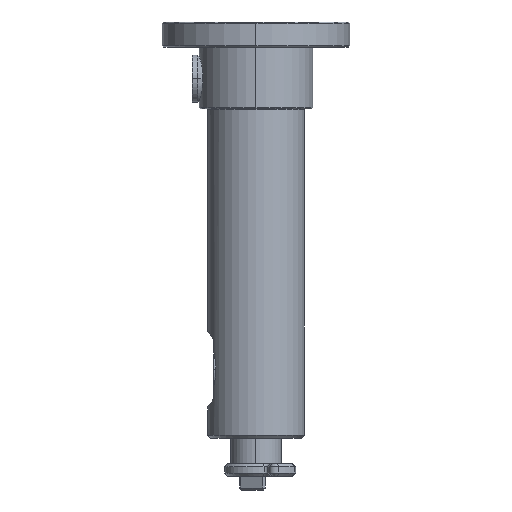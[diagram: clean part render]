
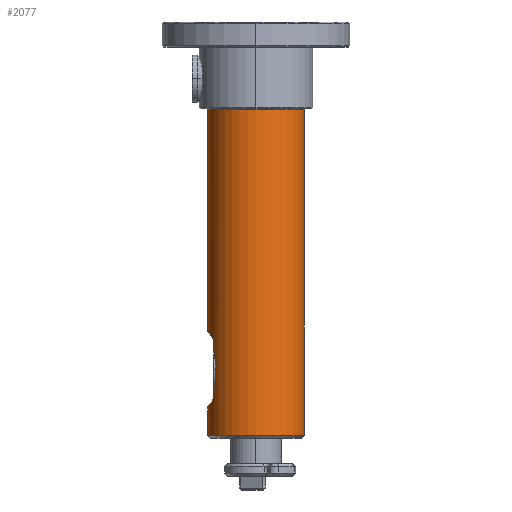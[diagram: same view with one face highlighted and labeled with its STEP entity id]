
A CAD part, front view. The second image highlights one B-rep face of the part: STEP entity #2077.
In plain terms, the highlighted cylindrical face has radius 7.7 mm (diameter 15.4 mm), a partial arc.
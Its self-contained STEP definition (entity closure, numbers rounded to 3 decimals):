
#1455=DIRECTION('',(0.,-1.,0.));
#1456=VECTOR('',#1455,35.3);
#1457=CARTESIAN_POINT('',(21.,-4.2,-13.3));
#1458=LINE('',#1457,#1456);
#1459=CARTESIAN_POINT('',(21.,-39.5,-13.3));
#1503=CARTESIAN_POINT('',(21.,-51.5,-13.3));
#1614=CARTESIAN_POINT('',(21.,-4.2,-21.));
#1615=DIRECTION('',(0.,1.,0.));
#1616=DIRECTION('',(0.,0.,1.));
#1617=AXIS2_PLACEMENT_3D('',#1614,#1615,#1616);
#1619=DIRECTION('',(0.,-1.,0.));
#1620=VECTOR('',#1619,51.8);
#1621=CARTESIAN_POINT('',(21.,-4.2,-28.7));
#1622=LINE('',#1621,#1620);
#1623=CARTESIAN_POINT('',(21.,-56.,-21.));
#1624=DIRECTION('',(0.,1.,0.));
#1625=DIRECTION('',(0.,0.,1.));
#1626=AXIS2_PLACEMENT_3D('',#1623,#1624,#1625);
#1628=DIRECTION('',(0.,1.,0.));
#1629=VECTOR('',#1628,4.5);
#1630=CARTESIAN_POINT('',(21.,-56.,
-13.3));
#1631=LINE('',#1630,#1629);
#1632=CARTESIAN_POINT('',(21.,-51.5,-13.3));
#1633=CARTESIAN_POINT('',(21.174,-51.5,-13.3));
#1634=CARTESIAN_POINT('',(21.52,-51.485,
-13.312));
#1635=CARTESIAN_POINT('',(22.036,-51.418,
-13.364));
#1636=CARTESIAN_POINT('',(22.539,-51.307,
-13.45));
#1637=CARTESIAN_POINT('',(23.024,-51.156,
-13.565));
#1638=CARTESIAN_POINT('',(23.487,-50.969,
-13.708));
#1639=CARTESIAN_POINT('',(23.935,-50.742,
-13.876));
#1640=CARTESIAN_POINT('',(24.37,-50.475,
-14.071));
#1641=CARTESIAN_POINT('',(24.655,-50.263,
-14.221));
#1642=CARTESIAN_POINT('',(24.795,-50.149,-14.3));
#1644=DIRECTION('',(0.,1.,0.));
#1645=VECTOR('',#1644,2.046);
#1646=CARTESIAN_POINT('',(24.795,-50.149,-14.3));
#1647=LINE('',#1646,#1645);
#1648=CARTESIAN_POINT('',(25.294,-45.5,-14.608));
#1649=CARTESIAN_POINT('',(25.294,-45.782,
-14.608));
#1650=CARTESIAN_POINT('',(25.262,-46.352,
-14.587));
#1651=CARTESIAN_POINT('',(25.092,-47.267,
-14.475));
#1652=CARTESIAN_POINT('',(24.907,-47.827,
-14.363));
#1653=CARTESIAN_POINT('',(24.795,-48.103,-14.3));
#1655=CARTESIAN_POINT('',(24.795,-42.897,-14.3));
#1656=CARTESIAN_POINT('',(24.907,-43.173,
-14.364));
#1657=CARTESIAN_POINT('',(25.092,-43.734,
-14.476));
#1658=CARTESIAN_POINT('',(25.263,-44.653,
-14.587));
#1659=CARTESIAN_POINT('',(25.294,-45.22,
-14.608));
#1660=CARTESIAN_POINT('',(25.294,-45.5,-14.608));
#1662=DIRECTION('',(0.,1.,0.));
#1663=VECTOR('',#1662,2.046);
#1664=CARTESIAN_POINT('',(24.795,-42.897,-14.3));
#1665=LINE('',#1664,#1663);
#1666=CARTESIAN_POINT('',(24.795,-40.851,-14.3));
#1667=CARTESIAN_POINT('',(24.654,-40.736,
-14.22));
#1668=CARTESIAN_POINT('',(24.367,-40.523,
-14.07));
#1669=CARTESIAN_POINT('',(23.926,-40.252,
-13.872));
#1670=CARTESIAN_POINT('',(23.472,-40.024,
-13.702));
#1671=CARTESIAN_POINT('',(23.004,-39.837,
-13.56));
#1672=CARTESIAN_POINT('',(22.522,-39.688,
-13.446));
#1673=CARTESIAN_POINT('',(22.025,-39.581,
-13.363));
#1674=CARTESIAN_POINT('',(21.517,-39.515,
-13.312));
#1675=CARTESIAN_POINT('',(21.173,-39.5,-13.3));
#1676=CARTESIAN_POINT('',(21.,-39.5,-13.3));
#1732=CARTESIAN_POINT('',(25.294,-45.5,-14.608));
#1733=VERTEX_POINT('',#1732);
#1734=VERTEX_POINT('',#1459);
#1737=VERTEX_POINT('',#1503);
#1738=VERTEX_POINT('',#1666);
#1739=VERTEX_POINT('',#1642);
#1740=CARTESIAN_POINT('',(21.,-56.,-13.3));
#1741=CARTESIAN_POINT('',(21.,-56.,-28.7));
#1742=VERTEX_POINT('',#1740);
#1743=VERTEX_POINT('',#1741);
#1765=CARTESIAN_POINT('',(24.795,-48.103,-14.3));
#1767=VERTEX_POINT('',#1765);
#1768=CARTESIAN_POINT('',(24.795,-42.897,-14.3));
#1770=VERTEX_POINT('',#1768);
#1784=CARTESIAN_POINT('',(21.,-4.2,-28.7));
#1785=CARTESIAN_POINT('',(21.,-4.2,-13.3));
#1786=VERTEX_POINT('',#1784);
#1787=VERTEX_POINT('',#1785);
#2054=CARTESIAN_POINT('',(21.,21.225,-21.));
#2055=DIRECTION('',(0.,1.,0.));
#2056=DIRECTION('',(0.,0.,1.));
#2057=AXIS2_PLACEMENT_3D('',#2054,#2055,#2056);
#2058=CYLINDRICAL_SURFACE('',#2057,7.7);
#2059=ORIENTED_EDGE('',*,*,#1967,.T.);
#2060=ORIENTED_EDGE('',*,*,#1956,.T.);
#2062=ORIENTED_EDGE('',*,*,#2061,.F.);
#2063=ORIENTED_EDGE('',*,*,#1952,.T.);
#2065=ORIENTED_EDGE('',*,*,#2064,.T.);
#2067=ORIENTED_EDGE('',*,*,#2066,.T.);
#2068=ORIENTED_EDGE('',*,*,#1907,.F.);
#2069=ORIENTED_EDGE('',*,*,#1926,.F.);
#2071=ORIENTED_EDGE('',*,*,#2070,.T.);
#2073=ORIENTED_EDGE('',*,*,#2072,.T.);
#2074=ORIENTED_EDGE('',*,*,#1940,.F.);
#2075=EDGE_LOOP('',(#2059,#2060,#2062,#2063,#2065,#2067,#2068,#2069,#2071,#2073,
#2074));
#2076=FACE_OUTER_BOUND('',#2075,.F.);
#2077=ADVANCED_FACE('',(#2076),#2058,.T.);
#1618=CIRCLE('',#1617,7.7);
#1627=CIRCLE('',#1626,7.7);
#1643=B_SPLINE_CURVE_WITH_KNOTS('',3,(#1632,#1633,#1634,#1635,#1636,#1637,#1638,
#1639,#1640,#1641,#1642),.UNSPECIFIED.,.F.,.F.,(4,1,1,1,1,1,1,1,4),(0.,
0.125,0.25,0.375,0.5,0.625,0.75,0.875,1.),.UNSPECIFIED.);
#1654=B_SPLINE_CURVE_WITH_KNOTS('',3,(#1648,#1649,#1650,#1651,#1652,#1653),
.UNSPECIFIED.,.F.,.F.,(4,1,1,4),(0.,0.333,0.667,1.),
.UNSPECIFIED.);
#1661=B_SPLINE_CURVE_WITH_KNOTS('',3,(#1655,#1656,#1657,#1658,#1659,#1660),
.UNSPECIFIED.,.F.,.F.,(4,1,1,4),(0.,0.333,0.667,1.),
.UNSPECIFIED.);
#1677=B_SPLINE_CURVE_WITH_KNOTS('',3,(#1666,#1667,#1668,#1669,#1670,#1671,#1672,
#1673,#1674,#1675,#1676),.UNSPECIFIED.,.F.,.F.,(4,1,1,1,1,1,1,1,4),(0.,
0.125,0.25,0.375,0.5,0.625,0.75,0.875,1.),.UNSPECIFIED.);
#1907=EDGE_CURVE('',#1733,#1767,#1654,.T.);
#1926=EDGE_CURVE('',#1770,#1733,#1661,.T.);
#1940=EDGE_CURVE('',#1787,#1734,#1458,.T.);
#1952=EDGE_CURVE('',#1742,#1737,#1631,.T.);
#1956=EDGE_CURVE('',#1786,#1743,#1622,.T.);
#1967=EDGE_CURVE('',#1787,#1786,#1618,.T.);
#2061=EDGE_CURVE('',#1742,#1743,#1627,.T.);
#2064=EDGE_CURVE('',#1737,#1739,#1643,.T.);
#2066=EDGE_CURVE('',#1739,#1767,#1647,.T.);
#2070=EDGE_CURVE('',#1770,#1738,#1665,.T.);
#2072=EDGE_CURVE('',#1738,#1734,#1677,.T.);
